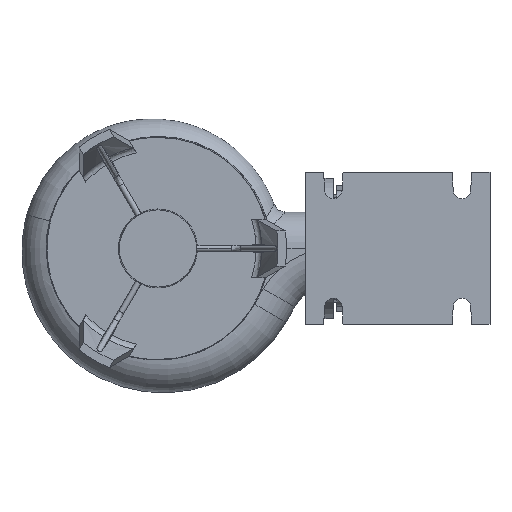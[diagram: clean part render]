
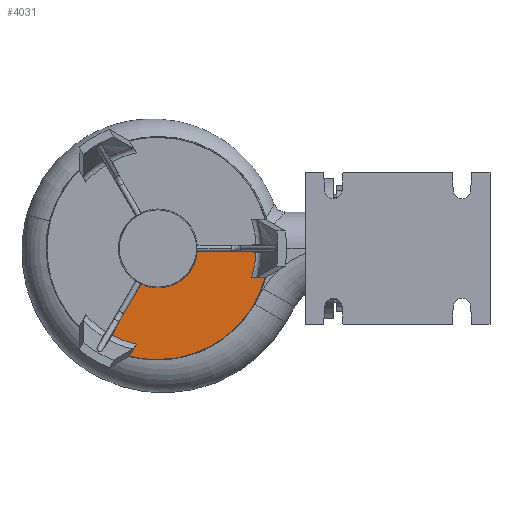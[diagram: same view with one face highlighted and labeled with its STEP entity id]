
A CAD part, front view. The second image highlights one B-rep face of the part: STEP entity #4031.
In plain terms, the highlighted planar face has unit normal (0, -1, 0).
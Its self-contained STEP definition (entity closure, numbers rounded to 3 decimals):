
#129 = AXIS2_PLACEMENT_3D ( 'NONE', #3004, #14362, #11981 ) ;
#295 = CARTESIAN_POINT ( 'NONE',  ( 90., -12., 0. ) ) ;
#429 = CARTESIAN_POINT ( 'NONE',  ( -5., -12., 0. ) ) ;
#550 = DIRECTION ( 'NONE',  ( 0., 1., 0. ) ) ;
#746 = VERTEX_POINT ( 'NONE', #11158 ) ;
#802 = CARTESIAN_POINT ( 'NONE',  ( -5., -12., 0. ) ) ;
#882 = VERTEX_POINT ( 'NONE', #2654 ) ;
#990 = ORIENTED_EDGE ( 'NONE', *, *, #4232, .F. ) ;
#995 = CARTESIAN_POINT ( 'NONE',  ( 63., -12., -2.62 ) ) ;
#1105 = DIRECTION ( 'NONE',  ( 1., 0., -0.029 ) ) ;
#1114 = VECTOR ( 'NONE', #11407, 1000. ) ;
#1194 = EDGE_CURVE ( 'NONE', #14886, #882, #11050, .T. ) ;
#1299 = AXIS2_PLACEMENT_3D ( 'NONE', #6529, #10038, #1325 ) ;
#1325 = DIRECTION ( 'NONE',  ( 0., 0., 1. ) ) ;
#1366 = EDGE_LOOP ( 'NONE', ( #7832, #2877, #14648, #8214, #12254, #3529, #10178, #13400, #5897, #990, #9126, #3566 ) ) ;
#1390 = VECTOR ( 'NONE', #2446, 1000. ) ;
#1466 = VERTEX_POINT ( 'NONE', #3527 ) ;
#1782 = CARTESIAN_POINT ( 'NONE',  ( -23.388, -12., -81.849 ) ) ;
#1966 = VERTEX_POINT ( 'NONE', #4508 ) ;
#2446 = DIRECTION ( 'NONE',  ( 0.5, 0., 0.866 ) ) ;
#2654 = CARTESIAN_POINT ( 'NONE',  ( 78.833, -12., -3.073 ) ) ;
#2666 = LINE ( 'NONE', #10420, #1114 ) ;
#2765 = LINE ( 'NONE', #12817, #14514 ) ;
#2877 = ORIENTED_EDGE ( 'NONE', *, *, #1194, .F. ) ;
#3004 = CARTESIAN_POINT ( 'NONE',  ( -5., -12., 0. ) ) ;
#3375 = CIRCLE ( 'NONE', #5453, 95. ) ;
#3378 = DIRECTION ( 'NONE',  ( -1., 0., 0. ) ) ;
#3527 = CARTESIAN_POINT ( 'NONE',  ( -5., -12., -95. ) ) ;
#3529 = ORIENTED_EDGE ( 'NONE', *, *, #14993, .F. ) ;
#3566 = ORIENTED_EDGE ( 'NONE', *, *, #4201, .T. ) ;
#3754 = CARTESIAN_POINT ( 'NONE',  ( 288673.125, -12., 499999.94 ) ) ;
#3791 = EDGE_CURVE ( 'NONE', #15903, #13842, #11857, .T. ) ;
#3925 = DIRECTION ( 'NONE',  ( 0.5, 0., 0.866 ) ) ;
#4031 = ADVANCED_FACE ( 'NONE', ( #6562 ), #4033, .T. ) ;
#4033 = PLANE ( 'NONE',  #15777 ) ;
#4079 = VECTOR ( 'NONE', #1105, 1000. ) ;
#4201 = EDGE_CURVE ( 'NONE', #5347, #9703, #6064, .T. ) ;
#4232 = EDGE_CURVE ( 'NONE', #1466, #13938, #9770, .T. ) ;
#4254 = VECTOR ( 'NONE', #3925, 1000. ) ;
#4508 = CARTESIAN_POINT ( 'NONE',  ( 28.686, -12., -2.62 ) ) ;
#4613 = CIRCLE ( 'NONE', #5404, 33.787 ) ;
#4625 = DIRECTION ( 'NONE',  ( 0., 0., 1. ) ) ;
#4673 = CARTESIAN_POINT ( 'NONE',  ( -5., -12., 0. ) ) ;
#5068 = AXIS2_PLACEMENT_3D ( 'NONE', #4673, #15968, #11043 ) ;
#5232 = LINE ( 'NONE', #9084, #4254 ) ;
#5347 = VERTEX_POINT ( 'NONE', #15581 ) ;
#5404 = AXIS2_PLACEMENT_3D ( 'NONE', #13039, #550, #15351 ) ;
#5453 = AXIS2_PLACEMENT_3D ( 'NONE', #429, #15138, #15387 ) ;
#5674 = DIRECTION ( 'NONE',  ( 1., 0., 0. ) ) ;
#5897 = ORIENTED_EDGE ( 'NONE', *, *, #15661, .F. ) ;
#6013 = DIRECTION ( 'NONE',  ( 0., 1., 0. ) ) ;
#6064 = LINE ( 'NONE', #12120, #16068 ) ;
#6316 = DIRECTION ( 'NONE',  ( 0., 0., 1. ) ) ;
#6483 = EDGE_CURVE ( 'NONE', #1966, #14886, #2765, .T. ) ;
#6529 = CARTESIAN_POINT ( 'NONE',  ( -5., -12., 0. ) ) ;
#6562 = FACE_OUTER_BOUND ( 'NONE', #1366, .T. ) ;
#7691 = EDGE_CURVE ( 'NONE', #14377, #746, #15084, .T. ) ;
#7832 = ORIENTED_EDGE ( 'NONE', *, *, #11157, .T. ) ;
#7951 = EDGE_CURVE ( 'NONE', #1966, #14377, #4613, .T. ) ;
#8214 = ORIENTED_EDGE ( 'NONE', *, *, #7951, .T. ) ;
#8375 = CARTESIAN_POINT ( 'NONE',  ( -29.175, -12., -91.873 ) ) ;
#8685 = CARTESIAN_POINT ( 'NONE',  ( 75.078, -12., -25. ) ) ;
#9084 = CARTESIAN_POINT ( 'NONE',  ( -53.602, -12., -134.181 ) ) ;
#9126 = ORIENTED_EDGE ( 'NONE', *, *, #11168, .F. ) ;
#9703 = VERTEX_POINT ( 'NONE', #8685 ) ;
#9770 = CIRCLE ( 'NONE', #5068, 95. ) ;
#10038 = DIRECTION ( 'NONE',  ( 0., -1., 0. ) ) ;
#10178 = ORIENTED_EDGE ( 'NONE', *, *, #13797, .T. ) ;
#10420 = CARTESIAN_POINT ( 'NONE',  ( 17.031, -12., 39.391 ) ) ;
#10769 = CARTESIAN_POINT ( 'NONE',  ( -5., -12., -33.787 ) ) ;
#10823 = VERTEX_POINT ( 'NONE', #12697 ) ;
#11043 = DIRECTION ( 'NONE',  ( 0., 0., -1. ) ) ;
#11050 = LINE ( 'NONE', #15979, #4079 ) ;
#11157 = EDGE_CURVE ( 'NONE', #9703, #882, #15401, .T. ) ;
#11158 = CARTESIAN_POINT ( 'NONE',  ( -19.574, -12., -30.483 ) ) ;
#11168 = EDGE_CURVE ( 'NONE', #5347, #1466, #3375, .T. ) ;
#11387 = DIRECTION ( 'NONE',  ( 0., -1., 0. ) ) ;
#11407 = DIRECTION ( 'NONE',  ( -0.475, 0., -0.88 ) ) ;
#11857 = CIRCLE ( 'NONE', #129, 83.889 ) ;
#11981 = DIRECTION ( 'NONE',  ( 0., 0., 1. ) ) ;
#12120 = CARTESIAN_POINT ( 'NONE',  ( 105., -12., -25. ) ) ;
#12254 = ORIENTED_EDGE ( 'NONE', *, *, #7691, .T. ) ;
#12697 = CARTESIAN_POINT ( 'NONE',  ( -36.731, -12., -60.2 ) ) ;
#12817 = CARTESIAN_POINT ( 'NONE',  ( -500005., -12., -2.62 ) ) ;
#13039 = CARTESIAN_POINT ( 'NONE',  ( -5., -12., 0. ) ) ;
#13250 = CARTESIAN_POINT ( 'NONE',  ( -44.255, -12., -74.138 ) ) ;
#13400 = ORIENTED_EDGE ( 'NONE', *, *, #3791, .T. ) ;
#13500 = AXIS2_PLACEMENT_3D ( 'NONE', #802, #6013, #4625 ) ;
#13649 = LINE ( 'NONE', #3754, #1390 ) ;
#13797 = EDGE_CURVE ( 'NONE', #10823, #15903, #2666, .T. ) ;
#13842 = VERTEX_POINT ( 'NONE', #1782 ) ;
#13938 = VERTEX_POINT ( 'NONE', #8375 ) ;
#14362 = DIRECTION ( 'NONE',  ( 0., -1., 0. ) ) ;
#14377 = VERTEX_POINT ( 'NONE', #10769 ) ;
#14514 = VECTOR ( 'NONE', #5674, 1000. ) ;
#14648 = ORIENTED_EDGE ( 'NONE', *, *, #6483, .F. ) ;
#14886 = VERTEX_POINT ( 'NONE', #995 ) ;
#14993 = EDGE_CURVE ( 'NONE', #10823, #746, #13649, .T. ) ;
#15084 = CIRCLE ( 'NONE', #13500, 33.787 ) ;
#15138 = DIRECTION ( 'NONE',  ( 0., 1., 0. ) ) ;
#15351 = DIRECTION ( 'NONE',  ( 0., 0., 1. ) ) ;
#15387 = DIRECTION ( 'NONE',  ( 0., 0., -1. ) ) ;
#15401 = CIRCLE ( 'NONE', #1299, 83.889 ) ;
#15581 = CARTESIAN_POINT ( 'NONE',  ( 86.652, -12., -25. ) ) ;
#15661 = EDGE_CURVE ( 'NONE', #13938, #13842, #5232, .T. ) ;
#15777 = AXIS2_PLACEMENT_3D ( 'NONE', #295, #11387, #6316 ) ;
#15903 = VERTEX_POINT ( 'NONE', #13250 ) ;
#15968 = DIRECTION ( 'NONE',  ( 0., 1., 0. ) ) ;
#15979 = CARTESIAN_POINT ( 'NONE',  ( 89.903, -12., -3.39 ) ) ;
#16068 = VECTOR ( 'NONE', #3378, 1000. ) ;
